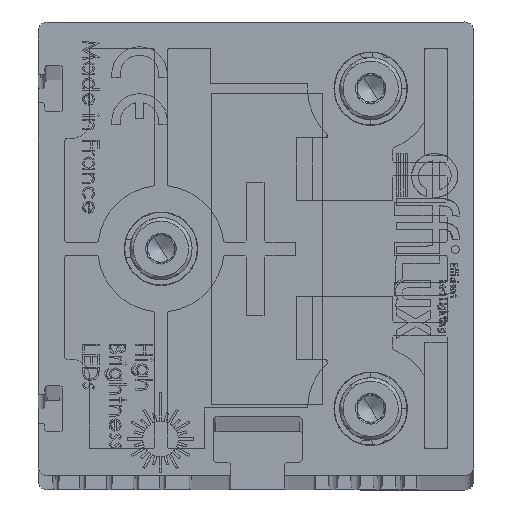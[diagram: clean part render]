
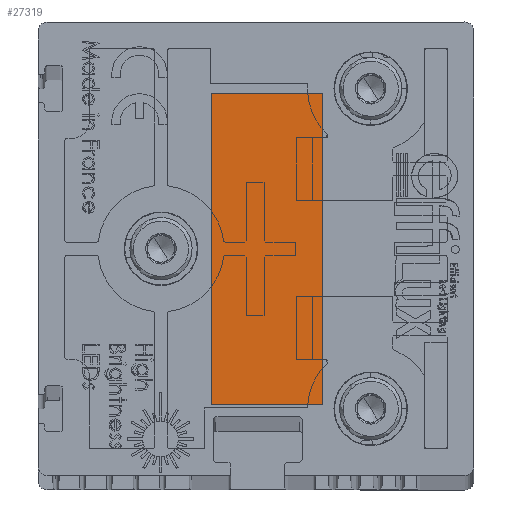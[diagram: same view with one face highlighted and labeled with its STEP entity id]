
A CAD part, top view. The second image highlights one B-rep face of the part: STEP entity #27319.
In plain terms, the highlighted planar face has unit normal (0, 0, 1) as drawn and (0, -1, 0) by its records, which use the part's own axes.
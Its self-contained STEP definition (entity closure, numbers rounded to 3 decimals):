
#3709 = ORIENTED_EDGE ( 'NONE', *, *, #27935, .T. ) ;
#9092 = LINE ( 'NONE', #96318, #20309 ) ;
#9797 = VERTEX_POINT ( 'NONE', #45087 ) ;
#13087 = CARTESIAN_POINT ( 'NONE',  ( 43., 0.1, -19.5 ) ) ;
#13972 = PLANE ( 'NONE',  #89917 ) ;
#18251 = ORIENTED_EDGE ( 'NONE', *, *, #50144, .T. ) ;
#20309 = VECTOR ( 'NONE', #75644, 1000. ) ;
#26900 = LINE ( 'NONE', #80667, #81660 ) ;
#27319 = ADVANCED_FACE ( 'NONE', ( #62361 ), #13972, .T. ) ;
#27935 = EDGE_CURVE ( 'NONE', #104823, #9797, #9092, .T. ) ;
#33731 = DIRECTION ( 'NONE',  ( 0., 0., -1. ) ) ;
#37487 = LINE ( 'NONE', #111375, #95465 ) ;
#38198 = ORIENTED_EDGE ( 'NONE', *, *, #96060, .T. ) ;
#38570 = CARTESIAN_POINT ( 'NONE',  ( 8., 0.1, -32. ) ) ;
#45087 = CARTESIAN_POINT ( 'NONE',  ( 43., 0.1, -19.5 ) ) ;
#47436 = ORIENTED_EDGE ( 'NONE', *, *, #131885, .T. ) ;
#47567 = DIRECTION ( 'NONE',  ( 0., 0., -1. ) ) ;
#50144 = EDGE_CURVE ( 'NONE', #95597, #74556, #80369, .T. ) ;
#62361 = FACE_OUTER_BOUND ( 'NONE', #119086, .T. ) ;
#74556 = VERTEX_POINT ( 'NONE', #86245 ) ;
#75644 = DIRECTION ( 'NONE',  ( 0., 0., 1. ) ) ;
#80369 = LINE ( 'NONE', #38570, #126930 ) ;
#80667 = CARTESIAN_POINT ( 'NONE',  ( 43., 0.1, -19.5 ) ) ;
#80862 = DIRECTION ( 'NONE',  ( 1., 0., 0. ) ) ;
#81122 = DIRECTION ( 'NONE',  ( -1., 0., 0. ) ) ;
#81660 = VECTOR ( 'NONE', #81122, 1000. ) ;
#86245 = CARTESIAN_POINT ( 'NONE',  ( 8., 0.1, -32. ) ) ;
#89917 = AXIS2_PLACEMENT_3D ( 'NONE', #13087, #116809, #33731 ) ;
#95465 = VECTOR ( 'NONE', #80862, 1000. ) ;
#95597 = VERTEX_POINT ( 'NONE', #132585 ) ;
#96060 = EDGE_CURVE ( 'NONE', #9797, #95597, #26900, .T. ) ;
#96318 = CARTESIAN_POINT ( 'NONE',  ( 43., 0.1, -32. ) ) ;
#100275 = CARTESIAN_POINT ( 'NONE',  ( 43., 0.1, -32. ) ) ;
#104823 = VERTEX_POINT ( 'NONE', #100275 ) ;
#111375 = CARTESIAN_POINT ( 'NONE',  ( 43., 0.1, -32. ) ) ;
#116809 = DIRECTION ( 'NONE',  ( 0., -1., 0. ) ) ;
#119086 = EDGE_LOOP ( 'NONE', ( #3709, #38198, #18251, #47436 ) ) ;
#126930 = VECTOR ( 'NONE', #47567, 1000. ) ;
#131885 = EDGE_CURVE ( 'NONE', #74556, #104823, #37487, .T. ) ;
#132585 = CARTESIAN_POINT ( 'NONE',  ( 8., 0.1, -19.5 ) ) ;
